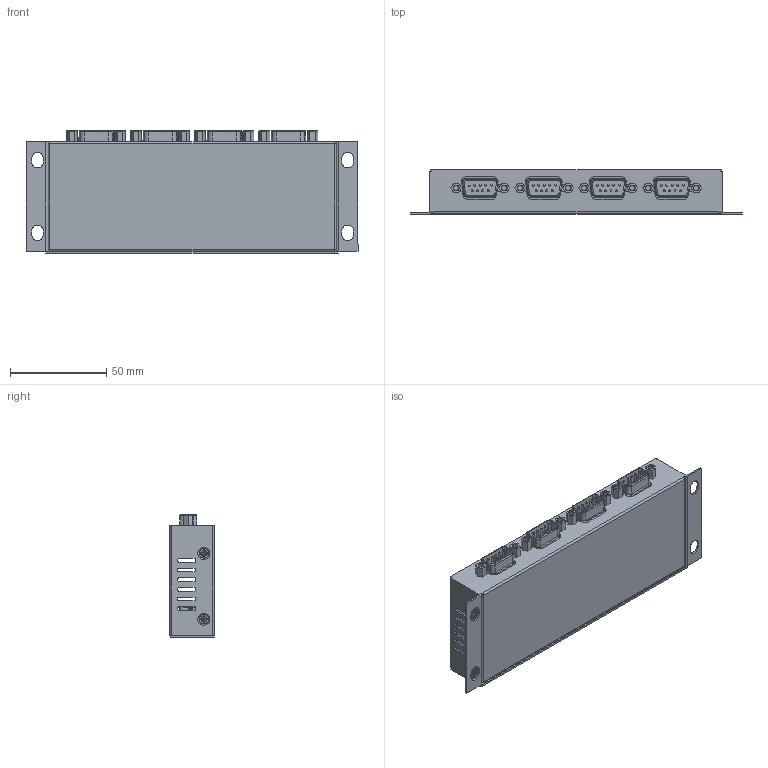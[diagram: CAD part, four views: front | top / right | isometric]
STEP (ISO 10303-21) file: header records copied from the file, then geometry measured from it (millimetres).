
FILE_DESCRIPTION(/* description */ (''),/* implementation_level */ '2;1');
FILE_NAME(/* name */ '/Users/leo/Desktop/Coolgear May/USBG-Bay4/USBG-Bay4 Model3D LPV1.step',/* time_stamp */ '2021-08-23T11:34:16-04:00',/* author */ (''),/* organization */ (''),/* preprocessor_version */ 'ST-DEVELOPER v18.1',/* originating_system */ 'Autodesk Translation Framework v10.9.0.1377',/* authorisation */ '');
FILE_SCHEMA (('AUTOMOTIVE_DESIGN { 1 0 10303 214 3 1 1 }'));
Products named in the file (1): FusionComponent
Bounding box: 172.8 x 23.33 x 63.77 mm (x, y, z)
Volume: 57067.4 mm3; surface area: 84311.6 mm2
Topology: 1 solids, 2 shells, 2203 faces, 6187 edges, 4018 vertices
Faces by surface type: plane 1521, cylinder 480, cone 90, torus 42, sphere 41, bspline 29
Full cylindrical faces by diameter (mm): 1 x36, 1.645 x1, 2.117 x1, 2.35 x16, 2.6 x8, 2.8 x8, 2.998 x1, 3 x24, 3.2 x4, 3.3 x1, 3.469 x1, 3.643 x1, 4.939 x2, 5.4 x4, 5.88 x1
Entity records: 80273 total; most frequent: CARTESIAN_POINT 23300, ORIENTED_EDGE 12280, DIRECTION 11093, EDGE_CURVE 6140, LINE 4645, VECTOR 4645, VERTEX_POINT 4020, AXIS2_PLACEMENT_3D 3224
